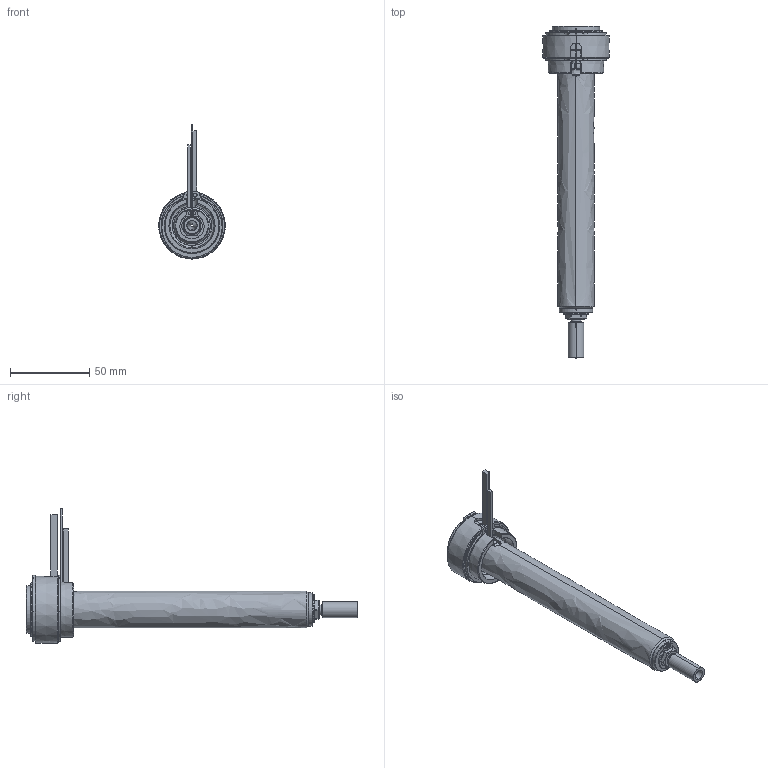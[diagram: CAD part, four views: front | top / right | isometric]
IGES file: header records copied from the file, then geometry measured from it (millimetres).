
Start section: SolidWorks IGES file using analytic representation for surfaces
Global section: file name: C:\Users\luca.EMPAD\Desktop\TEM\UGBE3504-M-A-P-5 [Ød-1.5 P-20 ØC-6.0].IGS; native system: SolidWorks 2012; preprocessor: SolidWorks 2012; author: luca; date: 120330.135727; units: millimetre
Bounding box: 42 x 209 x 84.4 mm (x, y, z)
Surface area: 35341.9 mm2 (no closed solid volume)
Topology: 0 solids, 0 shells, 178 faces, 3218 edges, 3218 vertices
Faces by surface type: revolution 111, bspline 67
